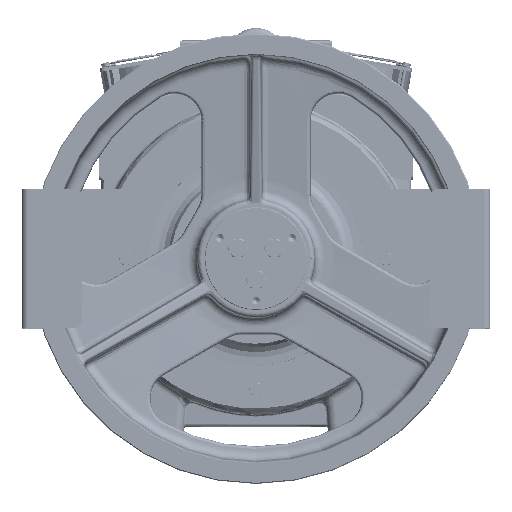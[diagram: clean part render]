
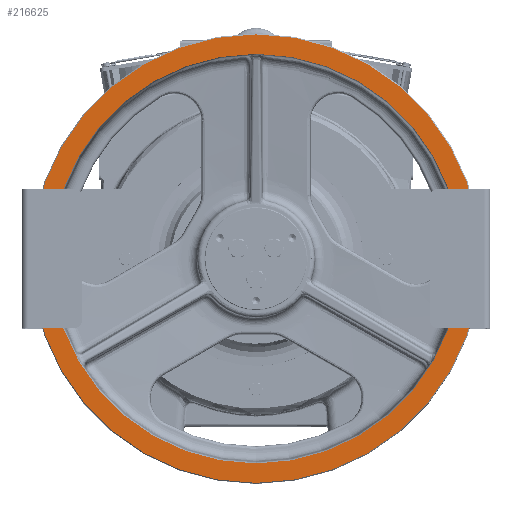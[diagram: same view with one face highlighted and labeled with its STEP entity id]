
A CAD part, top view. The second image highlights one B-rep face of the part: STEP entity #216625.
In plain terms, the highlighted planar face has unit normal (0, 0, 1) as drawn and (0, 1, 0) by its records, which use the part's own axes.
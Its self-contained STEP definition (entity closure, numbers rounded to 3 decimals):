
#202902=CARTESIAN_POINT('',(0.,54.5,0.));
#202903=DIRECTION('',(0.,-1.,0.));
#202904=DIRECTION('',(0.,0.,1.));
#202905=AXIS2_PLACEMENT_3D('',#202902,#202903,#202904);
#202907=CARTESIAN_POINT('',(0.,54.5,0.));
#202908=DIRECTION('',(0.,-1.,0.));
#202909=DIRECTION('',(0.,0.,-1.));
#202910=AXIS2_PLACEMENT_3D('',#202907,#202908,#202909);
#202927=CARTESIAN_POINT('',(0.,54.5,0.));
#202928=DIRECTION('',(0.,-1.,0.));
#202929=DIRECTION('',(0.,0.,-1.));
#202930=AXIS2_PLACEMENT_3D('',#202927,#202928,#202929);
#202932=CARTESIAN_POINT('',(0.,54.5,0.));
#202933=DIRECTION('',(0.,-1.,0.));
#202934=DIRECTION('',(0.,0.,1.));
#202935=AXIS2_PLACEMENT_3D('',#202932,#202933,#202934);
#202937=CARTESIAN_POINT('',(0.,54.5,0.));
#202938=DIRECTION('',(0.,1.,0.));
#202939=DIRECTION('',(0.,0.,-1.));
#202940=AXIS2_PLACEMENT_3D('',#202937,#202938,#202939);
#202942=CARTESIAN_POINT('',(0.,54.5,0.));
#202943=DIRECTION('',(0.,1.,0.));
#202944=DIRECTION('',(0.,0.,1.));
#202945=AXIS2_PLACEMENT_3D('',#202942,#202943,#202944);
#215231=CARTESIAN_POINT('',(0.,54.5,
-220.114));
#215232=VERTEX_POINT('',#215231);
#215233=CARTESIAN_POINT('',(0.,54.5,
220.114));
#215234=VERTEX_POINT('',#215233);
#215235=CARTESIAN_POINT('',(-0.149,54.5,
220.114));
#215236=VERTEX_POINT('',#215235);
#215237=CARTESIAN_POINT('',(0.149,54.5,
-220.114));
#215238=VERTEX_POINT('',#215237);
#215239=CARTESIAN_POINT('',(0.,54.5,-241.));
#215240=CARTESIAN_POINT('',(0.,54.5,241.));
#215241=VERTEX_POINT('',#215239);
#215242=VERTEX_POINT('',#215240);
#216608=CARTESIAN_POINT('',(0.,54.5,0.));
#216609=DIRECTION('',(0.,1.,0.));
#216610=DIRECTION('',(0.,0.,-1.));
#216611=AXIS2_PLACEMENT_3D('',#216608,#216609,#216610);
#216612=PLANE('',#216611);
#216614=ORIENTED_EDGE('',*,*,#216613,.T.);
#216616=ORIENTED_EDGE('',*,*,#216615,.T.);
#216617=EDGE_LOOP('',(#216614,#216616));
#216618=FACE_OUTER_BOUND('',#216617,.F.);
#216619=ORIENTED_EDGE('',*,*,#216587,.T.);
#216620=ORIENTED_EDGE('',*,*,#216585,.F.);
#216621=ORIENTED_EDGE('',*,*,#216600,.T.);
#216622=ORIENTED_EDGE('',*,*,#216598,.F.);
#216623=EDGE_LOOP('',(#216619,#216620,#216621,#216622));
#216624=FACE_BOUND('',#216623,.F.);
#216625=ADVANCED_FACE('',(#216618,#216624),#216612,.T.);
#202906=CIRCLE('',#202905,220.114);
#202911=CIRCLE('',#202910,220.114);
#202931=CIRCLE('',#202930,241.);
#202936=CIRCLE('',#202935,241.);
#202941=CIRCLE('',#202940,220.114);
#202946=CIRCLE('',#202945,220.114);
#216585=EDGE_CURVE('',#215234,#215236,#202906,.T.);
#216587=EDGE_CURVE('',#215232,#215236,#202941,.T.);
#216598=EDGE_CURVE('',#215232,#215238,#202911,.T.);
#216600=EDGE_CURVE('',#215234,#215238,#202946,.T.);
#216613=EDGE_CURVE('',#215241,#215242,#202931,.T.);
#216615=EDGE_CURVE('',#215242,#215241,#202936,.T.);
